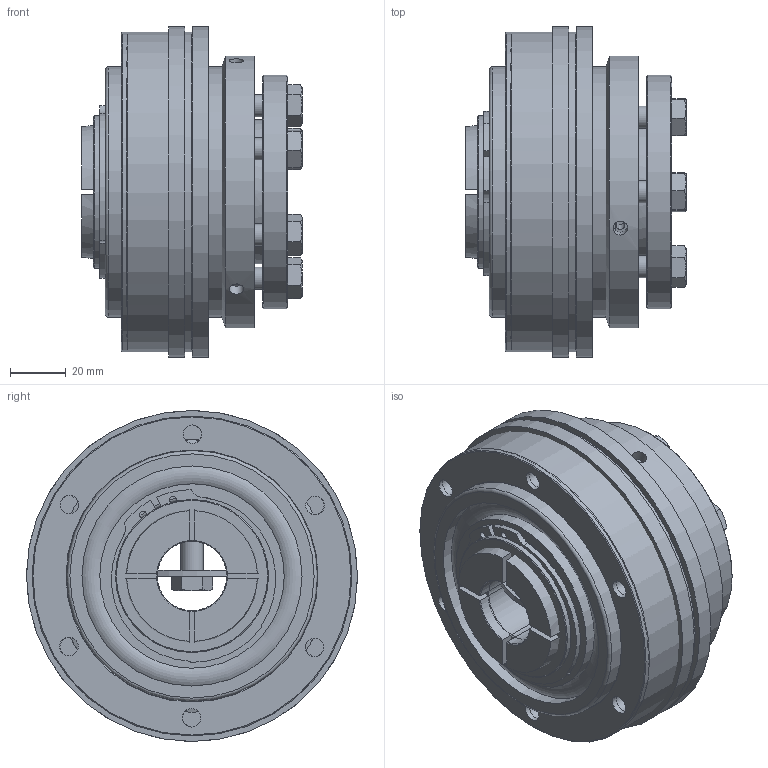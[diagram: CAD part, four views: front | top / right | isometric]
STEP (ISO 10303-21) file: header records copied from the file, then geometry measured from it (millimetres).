
FILE_DESCRIPTION( ( 'Unknown' ), '1' );
FILE_NAME( 'C:/Dokumente und Einstellungen/Sven/Desktop/hp kbk/KBK L-I-300.stp', 'Unknown', ( 'Unknown' ), ( 'Unknown' ), 'XStep 1.0', 'Unknown', ' ' );
FILE_SCHEMA( ( 'automotive_design' ) );
Length unit declared in the file: millimetre
Products named in the file (12): Assem1; Assem2; ball_bearing_-_6011_0_01_0; ball_bearing_-_6011_0_02_0; ball_bearing_-_6011_0_03_0; Stellring 300_0; Druckring 300_0; a_55_0; Kupplung L-I-300 Grundkörper_0; Konusbuchse 300_0; Flansch 300_0; din_en_24017_m8x30_0
Bounding box: 79.14 x 119 x 119 mm (x, y, z)
Volume: 968117.7 mm3; surface area: 334407.9 mm2
Topology: 28 solids, 28 shells, 475 faces, 1012 edges, 644 vertices
Faces by surface type: plane 189, cylinder 146, cone 108, torus 32
Full cylindrical faces by diameter (mm): 2.5 x4, 3.242 x6, 5.2 x6, 6.647 x30, 8 x7, 8.5 x12, 11.63 x7, 25 x4, 52 x4, 55 x7, 66.3 x6, 76 x6, 79.1 x6, 83.5 x2, 84 x2, 88 x2, 90 x5, 98 x2, 98.5 x2, 115 x4, 119 x2
Entity records: 4979 total; most frequent: CARTESIAN_POINT 1091, DIRECTION 806, ORIENTED_EDGE 528, AXIS2_PLACEMENT_3D 377, EDGE_LOOP 322, EDGE_CURVE 264, FACE_OUTER_BOUND 237, VERTEX_POINT 216
